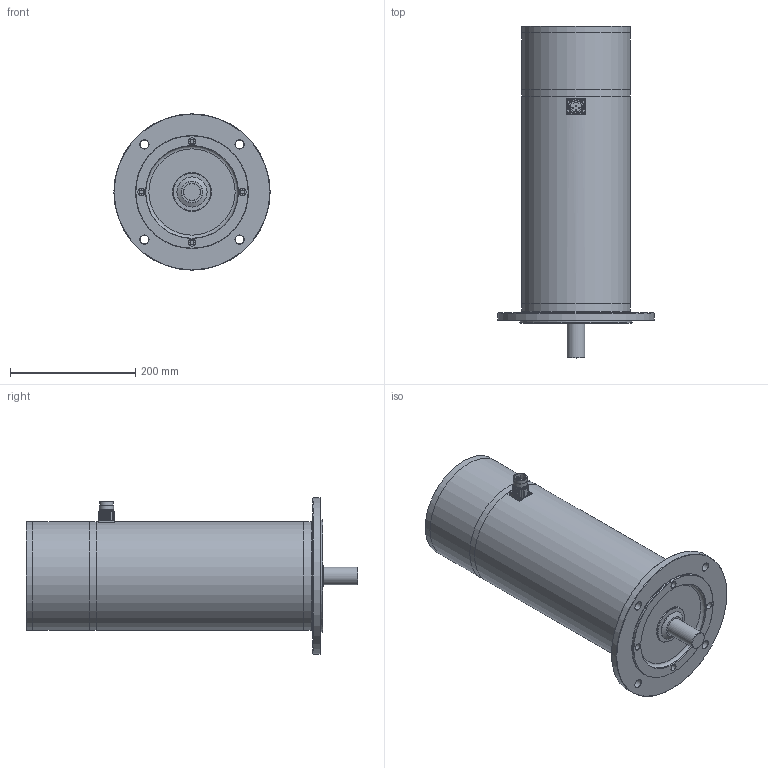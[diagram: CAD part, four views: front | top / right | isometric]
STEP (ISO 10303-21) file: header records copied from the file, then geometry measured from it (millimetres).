
FILE_DESCRIPTION(/* description */ (''),/* implementation_level */ '2;1');
FILE_NAME(/* name */ 'ksa_8x20e_mc',/* time_stamp */ '2007-03-14T10:14:38+01:00',/* author */ (''),/* organization */ (''),/* preprocessor_version */ 'ST-DEVELOPER v8',/* originating_system */ 'UNIGRAPHICS SOLUTIONS - UNIGRAPHICS 18.0',/* authorisation */ '');
FILE_SCHEMA (('AUTOMOTIVE_DESIGN { 1 2 10303 214 0 1 1 1 }'));
Length unit declared in the file: millimetre
Products named in the file (10): 064305_0; 089285_0; 118030_0; 014260_0; 06331401_0; DIN3760_org_A30x42x7_0; Rotor_SA 84.. E_0; Gehaeuse SA 84.. E_0; 118025_0; KSA8412_E-MC_0
Assembly tree (9 placements, depth 2):
  KSA8412_E-MC_0
    118025_0
    Gehaeuse SA 84.. E_0
    Rotor_SA 84.. E_0
    DIN3760_org_A30x42x7_0
    06331401_0
    014260_0
    118030_0
    089285_0
    064305_0
Bounding box: 250 x 531 x 250 mm (x, y, z)
Volume: 4869812.3 mm3; surface area: 729949 mm2
Topology: 9 solids, 9 shells, 235 faces, 557 edges, 356 vertices
Faces by surface type: cylinder 115, plane 59, cone 35, torus 18, sphere 8
Full cylindrical faces by diameter (mm): 1 x4, 2 x4, 2.7 x4, 6.4 x4, 11 x4, 14 x4, 18 x1, 20 x2, 21 x1, 21.5 x1, 23 x2, 27.52 x1, 27.9 x1, 28 x1, 30 x2, 30.3 x1, 38 x1, 39 x1, 42 x2, 48 x1, 56 x1, 60 x1, 62 x1, 140 x1, 148 x1, 150 x1, 151 x2, 174 x5, 180 x1, 250 x1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
Entity records: 6164 total; most frequent: DIRECTION 1166, CARTESIAN_POINT 937, ORIENTED_EDGE 764, AXIS2_PLACEMENT_3D 539, EDGE_LOOP 410, EDGE_CURVE 382, VERTEX_POINT 310, CIRCLE 294
